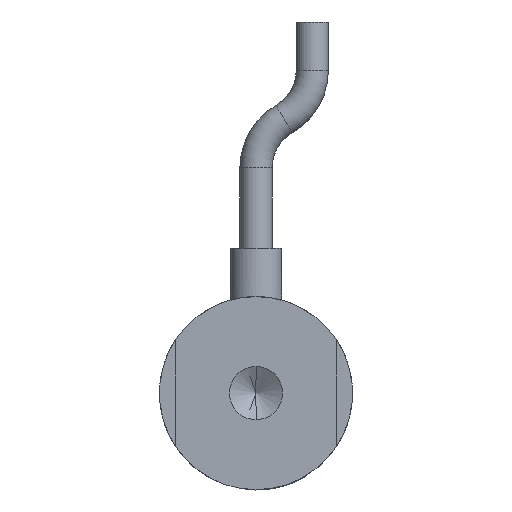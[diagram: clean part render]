
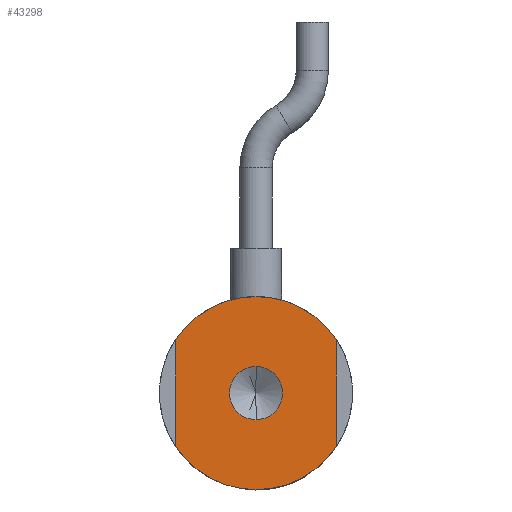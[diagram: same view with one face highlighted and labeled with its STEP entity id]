
A CAD part, front view. The second image highlights one B-rep face of the part: STEP entity #43298.
In plain terms, the highlighted planar face has unit normal (0, -1, 0).
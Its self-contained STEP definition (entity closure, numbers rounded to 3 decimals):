
#2299 = VERTEX_POINT ( 'NONE', #24669 ) ;
#2621 = DIRECTION ( 'NONE',  ( 0., -1., 0. ) ) ;
#2888 = ORIENTED_EDGE ( 'NONE', *, *, #37540, .F. ) ;
#4663 = VECTOR ( 'NONE', #9557, 1000. ) ;
#4957 = VERTEX_POINT ( 'NONE', #35627 ) ;
#5030 = ORIENTED_EDGE ( 'NONE', *, *, #34295, .F. ) ;
#5681 = AXIS2_PLACEMENT_3D ( 'NONE', #20081, #43661, #23435 ) ;
#6100 = CARTESIAN_POINT ( 'NONE',  ( 5., 0., 0. ) ) ;
#6508 = VERTEX_POINT ( 'NONE', #35424 ) ;
#6675 = VERTEX_POINT ( 'NONE', #34302 ) ;
#7756 = AXIS2_PLACEMENT_3D ( 'NONE', #22907, #2621, #26334 ) ;
#7858 = VECTOR ( 'NONE', #25657, 1000. ) ;
#7880 = DIRECTION ( 'NONE',  ( 0., -1., 0. ) ) ;
#8999 = AXIS2_PLACEMENT_3D ( 'NONE', #16468, #19867, #43417 ) ;
#9557 = DIRECTION ( 'NONE',  ( 0., 0., -1. ) ) ;
#10479 = DIRECTION ( 'NONE',  ( 0., 1., 0. ) ) ;
#11666 = FACE_OUTER_BOUND ( 'NONE', #26896, .T. ) ;
#12221 = ORIENTED_EDGE ( 'NONE', *, *, #18572, .F. ) ;
#13751 = CARTESIAN_POINT ( 'NONE',  ( 0., 0., 1.65 ) ) ;
#13838 = VERTEX_POINT ( 'NONE', #24764 ) ;
#13934 = VERTEX_POINT ( 'NONE', #22473 ) ;
#14639 = ORIENTED_EDGE ( 'NONE', *, *, #23621, .F. ) ;
#14820 = LINE ( 'NONE', #6100, #4663 ) ;
#14837 = CARTESIAN_POINT ( 'NONE',  ( 0., 0., 0. ) ) ;
#14983 = VERTEX_POINT ( 'NONE', #13751 ) ;
#15155 = CIRCLE ( 'NONE', #5681, 6. ) ;
#15553 = VERTEX_POINT ( 'NONE', #16306 ) ;
#16306 = CARTESIAN_POINT ( 'NONE',  ( 0., 0., 6. ) ) ;
#16468 = CARTESIAN_POINT ( 'NONE',  ( 0., 0., 0. ) ) ;
#17850 = DIRECTION ( 'NONE',  ( 0., 1., 0. ) ) ;
#18234 = DIRECTION ( 'NONE',  ( 0., 0., 1. ) ) ;
#18572 = EDGE_CURVE ( 'NONE', #15553, #6508, #31276, .T. ) ;
#19867 = DIRECTION ( 'NONE',  ( 0., 1., 0. ) ) ;
#20081 = CARTESIAN_POINT ( 'NONE',  ( 0., 0., 0. ) ) ;
#20647 = FACE_BOUND ( 'NONE', #39873, .T. ) ;
#21254 = EDGE_CURVE ( 'NONE', #2299, #13934, #24397, .T. ) ;
#22473 = CARTESIAN_POINT ( 'NONE',  ( 0., 0., -6. ) ) ;
#22907 = CARTESIAN_POINT ( 'NONE',  ( 0., 0., 0. ) ) ;
#23002 = CIRCLE ( 'NONE', #33490, 6. ) ;
#23435 = DIRECTION ( 'NONE',  ( 0., 0., 1. ) ) ;
#23621 = EDGE_CURVE ( 'NONE', #13934, #6675, #15155, .T. ) ;
#24397 = CIRCLE ( 'NONE', #30319, 6. ) ;
#24669 = CARTESIAN_POINT ( 'NONE',  ( 5., 0., -3.317 ) ) ;
#24764 = CARTESIAN_POINT ( 'NONE',  ( -5., 0., 3.317 ) ) ;
#25335 = EDGE_CURVE ( 'NONE', #13838, #15553, #23002, .T. ) ;
#25657 = DIRECTION ( 'NONE',  ( 0., 0., 1. ) ) ;
#26334 = DIRECTION ( 'NONE',  ( 0., 0., -1. ) ) ;
#26896 = EDGE_LOOP ( 'NONE', ( #5030, #14639, #31510, #40904, #12221, #36226 ) ) ;
#28156 = CARTESIAN_POINT ( 'NONE',  ( 0., 0., 0. ) ) ;
#29843 = PLANE ( 'NONE',  #8999 ) ;
#30319 = AXIS2_PLACEMENT_3D ( 'NONE', #38011, #17850, #41400 ) ;
#30634 = CARTESIAN_POINT ( 'NONE',  ( 0., 0., 0. ) ) ;
#31276 = CIRCLE ( 'NONE', #38195, 6. ) ;
#31510 = ORIENTED_EDGE ( 'NONE', *, *, #21254, .F. ) ;
#31521 = CIRCLE ( 'NONE', #7756, 1.65 ) ;
#31527 = DIRECTION ( 'NONE',  ( 0., 0., -1. ) ) ;
#32706 = LINE ( 'NONE', #39068, #7858 ) ;
#33490 = AXIS2_PLACEMENT_3D ( 'NONE', #30634, #10479, #34038 ) ;
#34038 = DIRECTION ( 'NONE',  ( 0., 0., 1. ) ) ;
#34181 = EDGE_CURVE ( 'NONE', #4957, #14983, #41706, .T. ) ;
#34295 = EDGE_CURVE ( 'NONE', #6675, #13838, #32706, .T. ) ;
#34302 = CARTESIAN_POINT ( 'NONE',  ( -5., 0., -3.317 ) ) ;
#34357 = EDGE_CURVE ( 'NONE', #6508, #2299, #14820, .T. ) ;
#34859 = AXIS2_PLACEMENT_3D ( 'NONE', #28156, #7880, #31527 ) ;
#35065 = ORIENTED_EDGE ( 'NONE', *, *, #34181, .F. ) ;
#35424 = CARTESIAN_POINT ( 'NONE',  ( 5., 0., 3.317 ) ) ;
#35627 = CARTESIAN_POINT ( 'NONE',  ( 0., 0., -1.65 ) ) ;
#36226 = ORIENTED_EDGE ( 'NONE', *, *, #25335, .F. ) ;
#37540 = EDGE_CURVE ( 'NONE', #14983, #4957, #31521, .T. ) ;
#38011 = CARTESIAN_POINT ( 'NONE',  ( 0., 0., 0. ) ) ;
#38195 = AXIS2_PLACEMENT_3D ( 'NONE', #14837, #38401, #18234 ) ;
#38401 = DIRECTION ( 'NONE',  ( 0., 1., 0. ) ) ;
#39068 = CARTESIAN_POINT ( 'NONE',  ( -5., 0., 0. ) ) ;
#39873 = EDGE_LOOP ( 'NONE', ( #35065, #2888 ) ) ;
#40904 = ORIENTED_EDGE ( 'NONE', *, *, #34357, .F. ) ;
#41400 = DIRECTION ( 'NONE',  ( 0., 0., 1. ) ) ;
#41706 = CIRCLE ( 'NONE', #34859, 1.65 ) ;
#43298 = ADVANCED_FACE ( 'NONE', ( #20647, #11666 ), #29843, .F. ) ;
#43417 = DIRECTION ( 'NONE',  ( 0., 0., 1. ) ) ;
#43661 = DIRECTION ( 'NONE',  ( 0., 1., 0. ) ) ;
